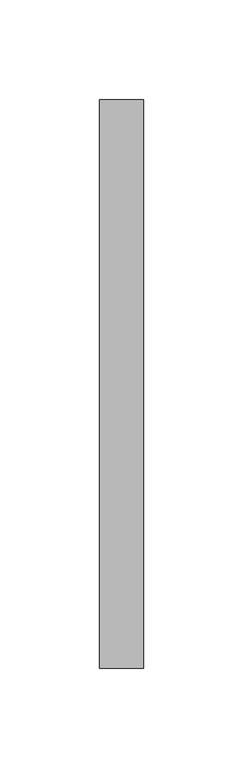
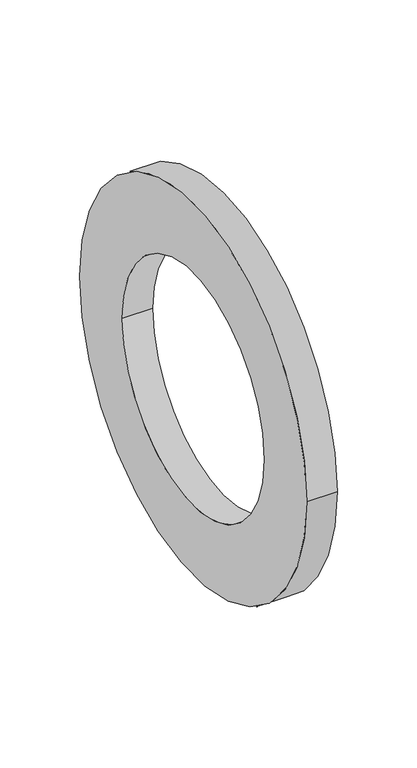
"""IFC4 building model written with IfcOpenShell, lengths in millimetres: pipe fitting geometry, NIRON accesorio brida : Estándar."""

from ifc_helpers import new_model, si_unit, point, frame, origin, origin_2d, place, context, project, spatial, circle_curve, trimmed, segment, composite_curve, outline, extrude, source, transform, mapped, element, save


def pipe_fitting_0b1e74fb(model_context):
    return source(origin(), model_context, "Body", "SweptSolid", [
        extrude(outline(composite_curve([segment(trimmed(circle_curve(origin_2d(), 142.5), [point((142.5, 0.0))], [point((-142.5, 0.0))], False, "CARTESIAN"), True, "CONTINUOUS"), segment(trimmed(circle_curve(origin_2d(), 142.5), [point((-142.5, 0.0))], [point((142.5, 0.0))], False, "CARTESIAN"), True, "CONTINUOUS")], self_intersect=False), holes=[composite_curve([segment(trimmed(circle_curve(origin_2d(), 89.0), [point((89.0, 0.0))], [point((-89.0, 0.0))], True, "CARTESIAN"), True, "CONTINUOUS"), segment(trimmed(circle_curve(origin_2d(), 89.0), [point((-89.0, 0.0))], [point((89.0, 0.0))], True, "CARTESIAN"), True, "CONTINUOUS")], self_intersect=False)]), frame((2.4830127, 0.0, 0.0), z_axis=(1.0, 0.0, 0.0), x_axis=(0.0, 1.0, 0.0)), (0.0, 0.0, 1.0), 22.0),
    ])


if __name__ == "__main__":
    model = new_model("IFC4")
    model_context = context("Model", 3, world=origin())
    ifc_project = project(units=[si_unit("LENGTHUNIT", "METRE", prefix="MILLI")], contexts=[model_context])
    site = spatial("IfcSite", under=ifc_project)
    building = spatial("IfcBuilding", under=site)
    placement = place(None, origin())
    pipe_fitting_shape = pipe_fitting_0b1e74fb(model_context)
    element("IfcPipeFitting", 1, ObjectType="NIRON accesorio brida : Estándar", at=placement, inside=building, context=model_context, shape_type="MappedRepresentation", body=[
        mapped(pipe_fitting_shape, transform((0.0, 0.0, 0.0), x_axis=(1.0, 0.0, 0.0), y_axis=(0.0, 1.0, 0.0), z_axis=(0.0, 0.0, 1.0))),
    ])
    save(model, "model.ifc")
